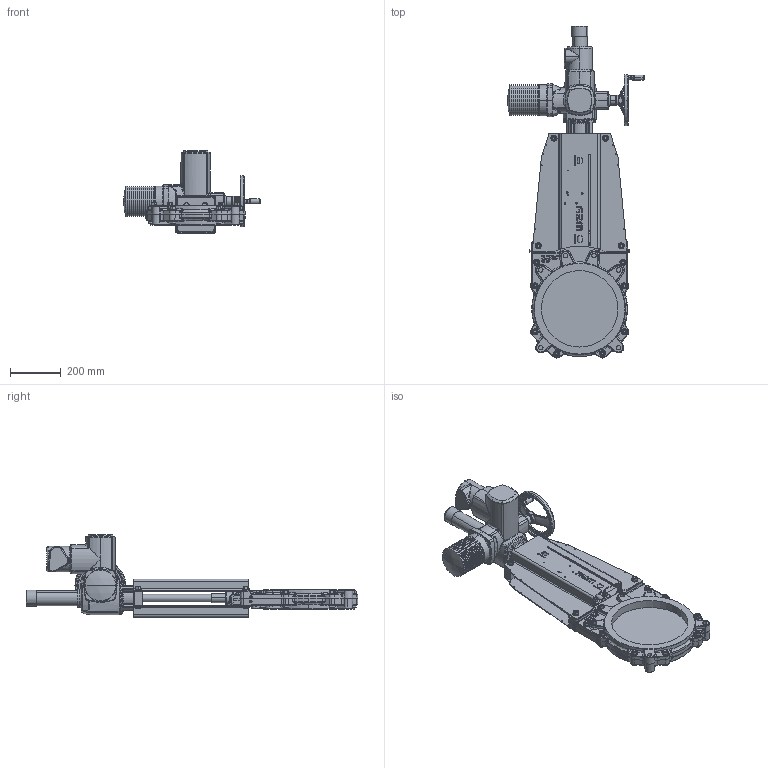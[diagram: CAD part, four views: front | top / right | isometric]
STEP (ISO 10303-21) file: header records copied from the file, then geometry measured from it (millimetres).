
FILE_DESCRIPTION (( 'STEP AP214' ), '1' );
FILE_NAME ('VSE DN 0300.STEP', '2015-09-23T11:21:20', ( 'admin' ), ( 'Hewlett-Packard Company' ), 'SwSTEP 2.0', 'SolidWorks 2013', '' );
FILE_SCHEMA (( 'AUTOMOTIVE_DESIGN' ));
Length unit declared in the file: millimetre
Products named in the file (1): VSE DN 0300
Bounding box: 537 x 1303 x 322 mm (x, y, z)
Volume: 17886138.7 mm3; surface area: 2039747.7 mm2
Topology: 71 solids, 75 shells, 3552 faces, 8431 edges, 4955 vertices
Faces by surface type: plane 1104, cylinder 1018, cone 561, bspline 559, torus 273, sphere 37
Entity records: 170904 total; most frequent: CARTESIAN_POINT 53494, ORIENTED_EDGE 16506, DIRECTION 15751, EDGE_CURVE 8253, AXIS2_PLACEMENT_3D 6350, VERTEX_POINT 4955, EDGE_LOOP 3900, UNCERTAINTY_MEASURE_WITH_UNIT 3625
